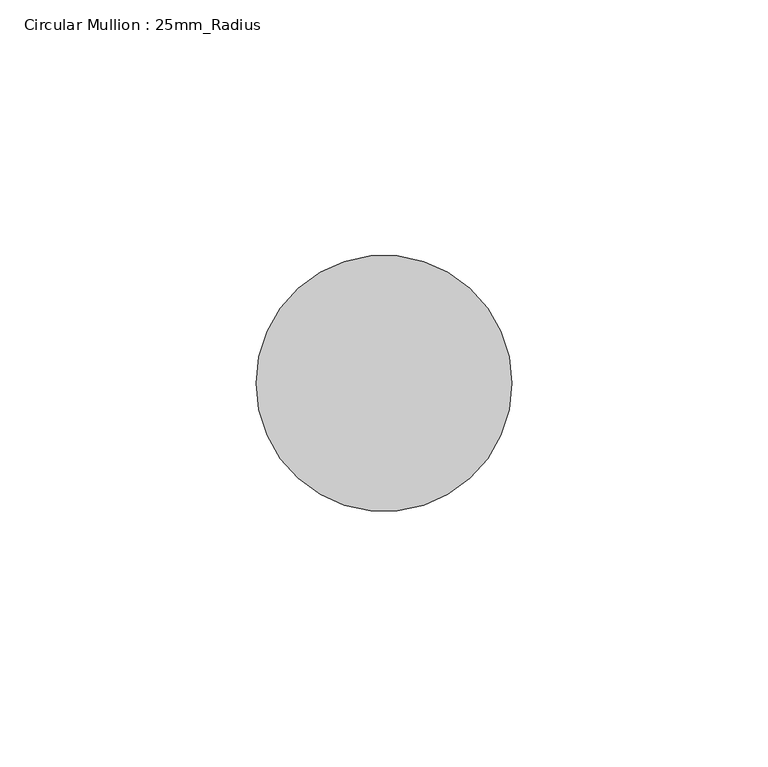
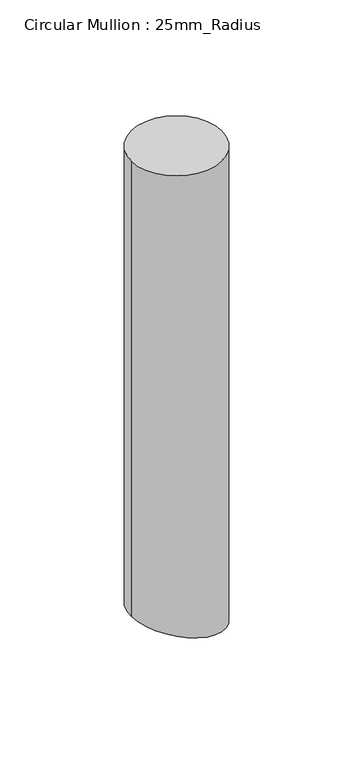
"""IFC4 building model written with IfcOpenShell, lengths in millimetres: member geometry, Circular Mullion : 25mm_Radius."""

from ifc_helpers import new_model, si_unit, frame, origin, place, context, project, spatial, circle_curve, ellipse_curve, source, transform, mapped, element, save
from ifc_brep_helpers import plane_surface, cylinder_surface, advanced_brep


def circular_mullion_25mm_radius_5fec8764(model_context):
    return source(origin(), model_context, "Body", "AdvancedBrep", [
        advanced_brep(
        [(0.0, 0.0, 0.0), (-50.0, 0.0, 0.0), (0.0, 0.0, -276.9993245), (-50.0, 0.0, -264.7588515)],
        [
            (0, 1, circle_curve(frame((-25.0, 0.0, 0.0), z_axis=(0.0, 0.0, 1.0), x_axis=(1.0, 0.0, 0.0)), 25.0)),
            (1, 0, circle_curve(frame((-25.0, 0.0, 0.0), z_axis=(0.0, 0.0, 1.0), x_axis=(1.0, 0.0, 0.0)), 25.0)),
            (0, 2),
            (2, 3, ellipse_curve(frame((-25.0, 0.0, -270.879088), z_axis=(0.23778763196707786, 0.0, 0.9713171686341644), x_axis=(-0.9713171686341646, 0.0, 0.2377876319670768)), 25.7382458, 25.0)),
            (3, 1),
            (3, 2, ellipse_curve(frame((-25.0, 0.0, -270.879088), z_axis=(0.23778763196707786, 0.0, 0.9713171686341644), x_axis=(-0.9713171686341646, 0.0, 0.2377876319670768)), 25.7382458, 25.0)),
        ],
        [
            plane_surface(frame((0.0, -50.0, 0.0), z_axis=(0.0, 0.0, 1.0), x_axis=(-1.0, 0.0, 0.0))),
            cylinder_surface(frame((-25.0, 0.0, 0.0), z_axis=(0.0, 0.0, 1.0), x_axis=(1.0, 0.0, 0.0)), 25.0),
            plane_surface(frame((0.0, -304.8, -276.9993245), z_axis=(-0.23778763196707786, 0.0, -0.9713171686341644), x_axis=(-0.9713171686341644, 0.0, 0.23778763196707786))),
        ],
        [
            (0, [[1, 2]]),
            (1, [[-1, 3, 4, 5]]),
            (1, [[-2, -5, 6, -3]]),
            (2, [[-6, -4]]),
        ],
    ),
    ])


if __name__ == "__main__":
    model = new_model("IFC4")
    model_context = context("Model", 3, world=origin())
    ifc_project = project(units=[si_unit("LENGTHUNIT", "METRE", prefix="MILLI")], contexts=[model_context])
    site = spatial("IfcSite", under=ifc_project)
    building = spatial("IfcBuilding", under=site)
    placement = place(None, origin())
    circular_mullion_25mm_radius_shape = circular_mullion_25mm_radius_5fec8764(model_context)
    element("IfcMember", 1, ObjectType="Circular Mullion : 25mm_Radius", at=placement, inside=building, context=model_context, shape_type="MappedRepresentation", body=[
        mapped(circular_mullion_25mm_radius_shape, transform((0.0, 0.0, 0.0), x_axis=(1.0, 0.0, 0.0), y_axis=(0.0, 1.0, 0.0), z_axis=(0.0, 0.0, 1.0))),
    ])
    save(model, "model.ifc")
